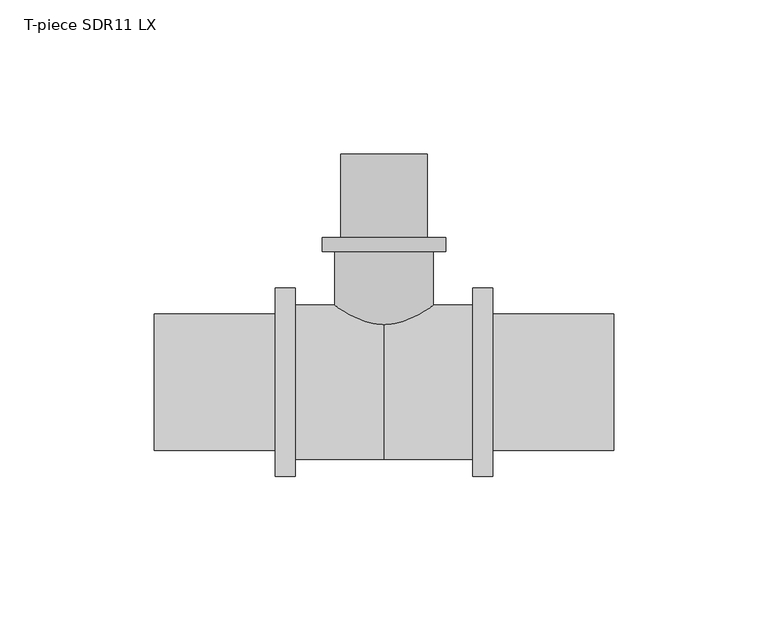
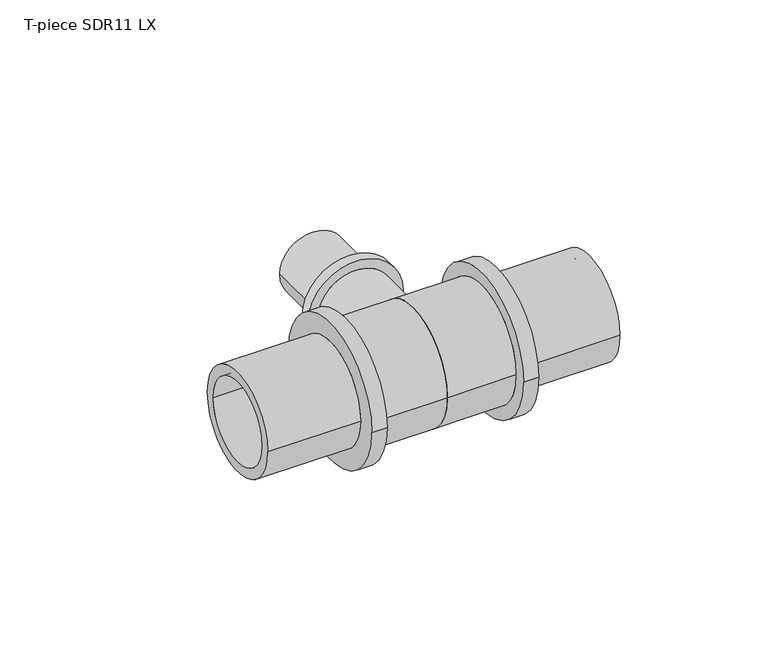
"""IFC4 building model written with IfcOpenShell, lengths in millimetres: pipe fitting geometry, T-piece SDR11 LX : T-piece LX SDR11 LX."""

from ifc_helpers import new_model, si_unit, point, frame, origin, place, context, project, spatial, polyline, circle_curve, ellipse_curve, trimmed, source, transform, mapped, element, save
from ifc_brep_helpers import plane_surface, cylinder_surface, revolved_surface, advanced_brep


def t_piece_sdr11_lx_82b26c80(model_context):
    return source(origin(), model_context, "Body", "AdvancedBrep", [
        advanced_brep(
        [(16.0, 1.4413619, 0.0), (-16.0, 1.4413619, 0.0), (-16.0, 42.3, 0.0), (16.0, 42.3, 0.0), (11.2, 73.8, 0.0), (-11.2, 73.8, 0.0), (-11.2, 0.0, 0.0), (11.2, 0.0, 0.0), (13.95, 46.8, 0.0), (-13.95, 46.8, 0.0), (-13.95, 73.8, 0.0), (13.95, 73.8, 0.0), (20.0, 42.3, 0.0), (-20.0, 42.3, 0.0), (-20.0, 46.8, 0.0), (20.0, 46.8, 0.0)],
        [
            (0, 1, circle_curve(frame((0.0, 1.4413619, 0.0), z_axis=(0.0, 1.0, 0.0), x_axis=(-1.0, 0.0, 0.0)), 16.0)),
            (1, 2),
            (2, 3, circle_curve(frame((0.0, 42.3, 0.0), z_axis=(0.0, -1.0, 0.0), x_axis=(-1.0, 0.0, 0.0)), 16.0)),
            (3, 0),
            (4, 5, circle_curve(frame((0.0, 73.8, 0.0), z_axis=(0.0, 1.0, 0.0), x_axis=(-1.0, 0.0, 0.0)), 11.2)),
            (5, 6),
            (6, 7, circle_curve(frame((0.0, 0.0, 0.0), z_axis=(0.0, -1.0, 0.0), x_axis=(-1.0, 0.0, 0.0)), 11.2)),
            (7, 4),
            (8, 9, circle_curve(frame((0.0, 46.8, 0.0), z_axis=(0.0, 1.0, 0.0), x_axis=(-1.0, 0.0, 0.0)), 13.95)),
            (9, 10),
            (10, 11, circle_curve(frame((0.0, 73.8, 0.0), z_axis=(0.0, -1.0, 0.0), x_axis=(-1.0, 0.0, 0.0)), 13.95)),
            (11, 8),
            (12, 13, circle_curve(frame((0.0, 42.3, 0.0), z_axis=(0.0, 1.0, 0.0), x_axis=(-1.0, 0.0, 0.0)), 20.0)),
            (13, 14),
            (14, 15, circle_curve(frame((0.0, 46.8, 0.0), z_axis=(0.0, -1.0, 0.0), x_axis=(-1.0, 0.0, 0.0)), 20.0)),
            (15, 12),
            (12, 13, circle_curve(frame((0.0, 42.3, 0.0), z_axis=(0.0, -1.0, 0.0), x_axis=(1.0, 0.0, 0.0)), 20.0)),
            (2, 3, circle_curve(frame((0.0, 42.3, 0.0), z_axis=(0.0, 1.0, 0.0), x_axis=(1.0, 0.0, 0.0)), 16.0)),
            (1, 0, circle_curve(frame((0.0, 1.4413619, 0.0), z_axis=(0.0, 1.0, 0.0), x_axis=(1.0, 0.0, 0.0)), 16.0)),
            (5, 4, circle_curve(frame((0.0, 73.8, 0.0), z_axis=(0.0, 1.0, 0.0), x_axis=(1.0, 0.0, 0.0)), 11.2)),
            (7, 6, circle_curve(frame((0.0, 0.0, 0.0), z_axis=(0.0, -1.0, 0.0), x_axis=(1.0, 0.0, 0.0)), 11.2)),
            (10, 11, circle_curve(frame((0.0, 73.8, 0.0), z_axis=(0.0, 1.0, 0.0), x_axis=(1.0, 0.0, 0.0)), 13.95)),
            (9, 8, circle_curve(frame((0.0, 46.8, 0.0), z_axis=(0.0, 1.0, 0.0), x_axis=(1.0, 0.0, 0.0)), 13.95)),
            (14, 15, circle_curve(frame((0.0, 46.8, 0.0), z_axis=(0.0, 1.0, 0.0), x_axis=(1.0, 0.0, 0.0)), 20.0)),
            (6, 1, circle_curve(frame((-6.4462802, 24.5438821, 0.0), z_axis=(0.0, 0.0, -1.0), x_axis=(0.0, -1.0, 0.0)), 25.0)),
            (0, 7, circle_curve(frame((6.4462802, 24.5438821, 0.0), z_axis=(0.0, 0.0, -1.0), x_axis=(0.0, -1.0, 0.0)), 25.0)),
        ],
        [
            cylinder_surface(frame((0.0, 0.0, 0.0), z_axis=(0.0, -1.0, 0.0), x_axis=(-1.0, 0.0, 0.0)), 16.0),
            revolved_surface(polyline([(-11.2, 0.0, 0.0), (-11.2, 73.8, 0.0)]), (0.0, 0.0, 0.0), (0.0, -1.0, 0.0)),
            cylinder_surface(frame((0.0, 0.0, 0.0), z_axis=(0.0, -1.0, 0.0), x_axis=(-1.0, 0.0, 0.0)), 13.95),
            cylinder_surface(frame((0.0, 0.0, 0.0), z_axis=(0.0, -1.0, 0.0), x_axis=(-1.0, 0.0, 0.0)), 20.0),
            plane_surface(frame((0.0, 42.3, 0.0), z_axis=(0.0, -1.0, 0.0), x_axis=(1.0, 0.0, 0.0))),
            cylinder_surface(frame((0.0, 0.0, 0.0), z_axis=(0.0, -1.0, 0.0), x_axis=(1.0, 0.0, 0.0)), 16.0),
            revolved_surface(polyline([(11.2, 0.0, 0.0), (11.2, 73.8, 0.0)]), (0.0, 0.0, 0.0), (0.0, -1.0, 0.0)),
            plane_surface(frame((0.0, 73.8, 0.0), z_axis=(0.0, 1.0, 0.0), x_axis=(1.0, 0.0, 0.0))),
            cylinder_surface(frame((0.0, 0.0, 0.0), z_axis=(0.0, -1.0, 0.0), x_axis=(1.0, 0.0, 0.0)), 13.95),
            plane_surface(frame((0.0, 46.8, 0.0), z_axis=(0.0, 1.0, 0.0), x_axis=(1.0, 0.0, 0.0))),
            cylinder_surface(frame((0.0, 0.0, 0.0), z_axis=(0.0, -1.0, 0.0), x_axis=(1.0, 0.0, 0.0)), 20.0),
            revolved_surface(trimmed(ellipse_curve(frame((-6.4462802, 24.5438821, 0.0), z_axis=(0.0, 0.0, 1.0), x_axis=(0.0, -1.0, 0.0)), 25.0, 25.0), [point((-16.0, 1.4413619, 0.0))], [point((-11.2, 0.0, 0.0))], True, "CARTESIAN"), (0.0, 0.0, 0.0), (0.0, -1.0, 0.0)),
            revolved_surface(trimmed(ellipse_curve(frame((6.4462802, 24.5438821, 0.0), z_axis=(0.0, 0.0, -1.0), x_axis=(0.0, -1.0, 0.0)), 25.0, 25.0), [point((16.0, 1.4413619, 0.0))], [point((11.2, 0.0, 0.0))], True, "CARTESIAN"), (0.0, 0.0, 0.0), (0.0, -1.0, 0.0)),
        ],
        [
            (0, [[1, 2, 3, 4]]),
            (1, [[5, 6, 7, 8]]),
            (2, [[9, 10, 11, 12]]),
            (3, [[13, 14, 15, 16]]),
            (4, [[17, -13], [18, -3]]),
            (5, [[19, -4, -18, -2]]),
            (6, [[20, -8, 21, -6]]),
            (7, [[22, -11], [-20, -5]]),
            (8, [[23, -12, -22, -10]]),
            (9, [[24, -15], [-23, -9]]),
            (10, [[-17, -16, -24, -14]]),
            (11, [[-7, 25, -1, 26]]),
            (12, [[-21, -26, -19, -25]]),
        ],
    ),
        advanced_brep(
        [(28.8, 25.0, 0.0), (28.8, -25.0, 0.0), (0.0, -25.0, 0.0), (0.0, 25.0, 0.0), (0.0, 17.75, 0.0), (0.0, -17.75, 0.0), (74.3, -17.75, 0.0), (74.3, 17.75, 0.0), (74.3, 22.15, 0.0), (74.3, -22.15, 0.0), (35.2, -22.15, 0.0), (35.2, 22.15, 0.0), (35.2, 30.5, 0.0), (35.2, -30.5, 0.0), (28.8, -30.5, 0.0), (28.8, 30.5, 0.0)],
        [
            (0, 1, circle_curve(frame((28.8, 0.0, 0.0), z_axis=(-1.0, 0.0, 0.0), x_axis=(0.0, -1.0, 0.0)), 25.0)),
            (1, 2),
            (2, 3, circle_curve(frame((0.0, 0.0, 0.0), z_axis=(1.0, 0.0, 0.0), x_axis=(0.0, -1.0, 0.0)), 25.0)),
            (3, 0),
            (4, 5, circle_curve(frame((0.0, 0.0, 0.0), z_axis=(-1.0, 0.0, 0.0), x_axis=(0.0, -1.0, 0.0)), 17.75)),
            (5, 6),
            (6, 7, circle_curve(frame((74.3, 0.0, 0.0), z_axis=(1.0, 0.0, 0.0), x_axis=(0.0, -1.0, 0.0)), 17.75)),
            (7, 4),
            (8, 9, circle_curve(frame((74.3, 0.0, 0.0), z_axis=(-1.0, 0.0, 0.0), x_axis=(0.0, -1.0, 0.0)), 22.15)),
            (9, 10),
            (10, 11, circle_curve(frame((35.2, 0.0, 0.0), z_axis=(1.0, 0.0, 0.0), x_axis=(0.0, -1.0, 0.0)), 22.15)),
            (11, 8),
            (12, 13, circle_curve(frame((35.2, 0.0, 0.0), z_axis=(-1.0, 0.0, 0.0), x_axis=(0.0, -1.0, 0.0)), 30.5)),
            (13, 14),
            (14, 15, circle_curve(frame((28.8, 0.0, 0.0), z_axis=(1.0, 0.0, 0.0), x_axis=(0.0, -1.0, 0.0)), 30.5)),
            (15, 12),
            (14, 15, circle_curve(frame((28.8, 0.0, 0.0), z_axis=(-1.0, 0.0, 0.0), x_axis=(0.0, 1.0, 0.0)), 30.5)),
            (0, 1, circle_curve(frame((28.8, 0.0, 0.0), z_axis=(1.0, 0.0, 0.0), x_axis=(0.0, 1.0, 0.0)), 25.0)),
            (3, 2, circle_curve(frame((0.0, 0.0, 0.0), z_axis=(1.0, 0.0, 0.0), x_axis=(0.0, 1.0, 0.0)), 25.0)),
            (4, 5, circle_curve(frame((0.0, 0.0, 0.0), z_axis=(1.0, 0.0, 0.0), x_axis=(0.0, 1.0, 0.0)), 17.75)),
            (7, 6, circle_curve(frame((74.3, 0.0, 0.0), z_axis=(1.0, 0.0, 0.0), x_axis=(0.0, 1.0, 0.0)), 17.75)),
            (8, 9, circle_curve(frame((74.3, 0.0, 0.0), z_axis=(1.0, 0.0, 0.0), x_axis=(0.0, 1.0, 0.0)), 22.15)),
            (11, 10, circle_curve(frame((35.2, 0.0, 0.0), z_axis=(1.0, 0.0, 0.0), x_axis=(0.0, 1.0, 0.0)), 22.15)),
            (12, 13, circle_curve(frame((35.2, 0.0, 0.0), z_axis=(1.0, 0.0, 0.0), x_axis=(0.0, 1.0, 0.0)), 30.5)),
        ],
        [
            cylinder_surface(frame((0.0, 0.0, 0.0), z_axis=(1.0, 0.0, 0.0), x_axis=(0.0, -1.0, 0.0)), 25.0),
            revolved_surface(polyline([(74.3, -17.75, 0.0), (0.0, -17.75, 0.0)]), (0.0, 0.0, 0.0), (1.0, 0.0, 0.0)),
            cylinder_surface(frame((0.0, 0.0, 0.0), z_axis=(1.0, 0.0, 0.0), x_axis=(0.0, -1.0, 0.0)), 22.15),
            cylinder_surface(frame((0.0, 0.0, 0.0), z_axis=(1.0, 0.0, 0.0), x_axis=(0.0, -1.0, 0.0)), 30.5),
            plane_surface(frame((28.8, 0.0, 0.0), z_axis=(-1.0, 0.0, 0.0), x_axis=(0.0, 1.0, 0.0))),
            cylinder_surface(frame((0.0, 0.0, 0.0), z_axis=(1.0, 0.0, 0.0), x_axis=(0.0, 1.0, 0.0)), 25.0),
            plane_surface(frame((0.0, 0.0, 0.0), z_axis=(-1.0, 0.0, 0.0), x_axis=(0.0, 1.0, 0.0))),
            revolved_surface(polyline([(74.3, 17.75, 0.0), (0.0, 17.75, 0.0)]), (0.0, 0.0, 0.0), (1.0, 0.0, 0.0)),
            plane_surface(frame((74.3, 0.0, 0.0), z_axis=(1.0, 0.0, 0.0), x_axis=(0.0, 1.0, 0.0))),
            cylinder_surface(frame((0.0, 0.0, 0.0), z_axis=(1.0, 0.0, 0.0), x_axis=(0.0, 1.0, 0.0)), 22.15),
            plane_surface(frame((35.2, 0.0, 0.0), z_axis=(1.0, 0.0, 0.0), x_axis=(0.0, 1.0, 0.0))),
            cylinder_surface(frame((0.0, 0.0, 0.0), z_axis=(1.0, 0.0, 0.0), x_axis=(0.0, 1.0, 0.0)), 30.5),
        ],
        [
            (0, [[1, 2, 3, 4]]),
            (1, [[5, 6, 7, 8]]),
            (2, [[9, 10, 11, 12]]),
            (3, [[13, 14, 15, 16]]),
            (4, [[17, -15], [18, -1]]),
            (5, [[-18, -4, 19, -2]]),
            (6, [[-19, -3], [20, -5]]),
            (7, [[-20, -8, 21, -6]]),
            (8, [[22, -9], [-21, -7]]),
            (9, [[-22, -12, 23, -10]]),
            (10, [[24, -13], [-23, -11]]),
            (11, [[-24, -16, -17, -14]]),
        ],
    ),
        advanced_brep(
        [(0.0, 25.0, 0.0), (0.0, -25.0, 0.0), (-28.8, -25.0, 0.0), (-28.8, 25.0, 0.0), (-74.3, 17.75, 0.0), (-74.3, -17.75, 0.0), (0.0, -17.75, 0.0), (0.0, 17.75, 0.0), (-35.2, 22.15, 0.0), (-35.2, -22.15, 0.0), (-74.3, -22.15, 0.0), (-74.3, 22.15, 0.0), (-28.8, 30.5, 0.0), (-28.8, -30.5, 0.0), (-35.2, -30.5, 0.0), (-35.2, 30.5, 0.0)],
        [
            (0, 1, circle_curve(frame((0.0, 0.0, 0.0), z_axis=(-1.0, 0.0, 0.0), x_axis=(0.0, -1.0, 0.0)), 25.0)),
            (1, 2),
            (2, 3, circle_curve(frame((-28.8, 0.0, 0.0), z_axis=(1.0, 0.0, 0.0), x_axis=(0.0, -1.0, 0.0)), 25.0)),
            (3, 0),
            (4, 5, circle_curve(frame((-74.3, 0.0, 0.0), z_axis=(-1.0, 0.0, 0.0), x_axis=(0.0, -1.0, 0.0)), 17.75)),
            (5, 6),
            (6, 7, circle_curve(frame((0.0, 0.0, 0.0), z_axis=(1.0, 0.0, 0.0), x_axis=(0.0, -1.0, 0.0)), 17.75)),
            (7, 4),
            (8, 9, circle_curve(frame((-35.2, 0.0, 0.0), z_axis=(-1.0, 0.0, 0.0), x_axis=(0.0, -1.0, 0.0)), 22.15)),
            (9, 10),
            (10, 11, circle_curve(frame((-74.3, 0.0, 0.0), z_axis=(1.0, 0.0, 0.0), x_axis=(0.0, -1.0, 0.0)), 22.15)),
            (11, 8),
            (12, 13, circle_curve(frame((-28.8, 0.0, 0.0), z_axis=(-1.0, 0.0, 0.0), x_axis=(0.0, -1.0, 0.0)), 30.5)),
            (13, 14),
            (14, 15, circle_curve(frame((-35.2, 0.0, 0.0), z_axis=(1.0, 0.0, 0.0), x_axis=(0.0, -1.0, 0.0)), 30.5)),
            (15, 12),
            (12, 13, circle_curve(frame((-28.8, 0.0, 0.0), z_axis=(1.0, 0.0, 0.0), x_axis=(0.0, 1.0, 0.0)), 30.5)),
            (2, 3, circle_curve(frame((-28.8, 0.0, 0.0), z_axis=(-1.0, 0.0, 0.0), x_axis=(0.0, 1.0, 0.0)), 25.0)),
            (1, 0, circle_curve(frame((0.0, 0.0, 0.0), z_axis=(-1.0, 0.0, 0.0), x_axis=(0.0, 1.0, 0.0)), 25.0)),
            (6, 7, circle_curve(frame((0.0, 0.0, 0.0), z_axis=(-1.0, 0.0, 0.0), x_axis=(0.0, 1.0, 0.0)), 17.75)),
            (5, 4, circle_curve(frame((-74.3, 0.0, 0.0), z_axis=(-1.0, 0.0, 0.0), x_axis=(0.0, 1.0, 0.0)), 17.75)),
            (10, 11, circle_curve(frame((-74.3, 0.0, 0.0), z_axis=(-1.0, 0.0, 0.0), x_axis=(0.0, 1.0, 0.0)), 22.15)),
            (9, 8, circle_curve(frame((-35.2, 0.0, 0.0), z_axis=(-1.0, 0.0, 0.0), x_axis=(0.0, 1.0, 0.0)), 22.15)),
            (14, 15, circle_curve(frame((-35.2, 0.0, 0.0), z_axis=(-1.0, 0.0, 0.0), x_axis=(0.0, 1.0, 0.0)), 30.5)),
        ],
        [
            cylinder_surface(frame((0.0, 0.0, 0.0), z_axis=(1.0, 0.0, 0.0), x_axis=(0.0, -1.0, 0.0)), 25.0),
            revolved_surface(polyline([(0.0, -17.75, 0.0), (-74.3, -17.75, 0.0)]), (0.0, 0.0, 0.0), (1.0, 0.0, 0.0)),
            cylinder_surface(frame((0.0, 0.0, 0.0), z_axis=(1.0, 0.0, 0.0), x_axis=(0.0, -1.0, 0.0)), 22.15),
            cylinder_surface(frame((0.0, 0.0, 0.0), z_axis=(1.0, 0.0, 0.0), x_axis=(0.0, -1.0, 0.0)), 30.5),
            plane_surface(frame((-28.8, 0.0, 0.0), z_axis=(1.0, 0.0, 0.0), x_axis=(0.0, 1.0, 0.0))),
            cylinder_surface(frame((0.0, 0.0, 0.0), z_axis=(1.0, 0.0, 0.0), x_axis=(0.0, 1.0, 0.0)), 25.0),
            plane_surface(frame((0.0, 0.0, 0.0), z_axis=(1.0, 0.0, 0.0), x_axis=(0.0, 1.0, 0.0))),
            revolved_surface(polyline([(0.0, 17.75, 0.0), (-74.3, 17.75, 0.0)]), (0.0, 0.0, 0.0), (1.0, 0.0, 0.0)),
            plane_surface(frame((-74.3, 0.0, 0.0), z_axis=(-1.0, 0.0, 0.0), x_axis=(0.0, 1.0, 0.0))),
            cylinder_surface(frame((0.0, 0.0, 0.0), z_axis=(1.0, 0.0, 0.0), x_axis=(0.0, 1.0, 0.0)), 22.15),
            plane_surface(frame((-35.2, 0.0, 0.0), z_axis=(-1.0, 0.0, 0.0), x_axis=(0.0, 1.0, 0.0))),
            cylinder_surface(frame((0.0, 0.0, 0.0), z_axis=(1.0, 0.0, 0.0), x_axis=(0.0, 1.0, 0.0)), 30.5),
        ],
        [
            (0, [[1, 2, 3, 4]]),
            (1, [[5, 6, 7, 8]]),
            (2, [[9, 10, 11, 12]]),
            (3, [[13, 14, 15, 16]]),
            (4, [[17, -13], [18, -3]]),
            (5, [[19, -4, -18, -2]]),
            (6, [[-19, -1], [20, -7]]),
            (7, [[21, -8, -20, -6]]),
            (8, [[22, -11], [-21, -5]]),
            (9, [[23, -12, -22, -10]]),
            (10, [[24, -15], [-23, -9]]),
            (11, [[-17, -16, -24, -14]]),
        ],
    ),
    ])


if __name__ == "__main__":
    model = new_model("IFC4")
    model_context = context("Model", 3, world=origin())
    ifc_project = project(units=[si_unit("LENGTHUNIT", "METRE", prefix="MILLI")], contexts=[model_context])
    site = spatial("IfcSite", under=ifc_project)
    building = spatial("IfcBuilding", under=site)
    placement = place(None, origin())
    t_piece_sdr11_lx_shape = t_piece_sdr11_lx_82b26c80(model_context)
    element("IfcPipeFitting", 1, ObjectType="T-piece SDR11 LX : T-piece LX SDR11 LX", at=placement, inside=building, context=model_context, shape_type="MappedRepresentation", body=[
        mapped(t_piece_sdr11_lx_shape, transform((0.0, 0.0, 0.0), x_axis=(1.0, 0.0, 0.0), y_axis=(0.0, 1.0, 0.0), z_axis=(0.0, 0.0, 1.0))),
    ])
    save(model, "model.ifc")
